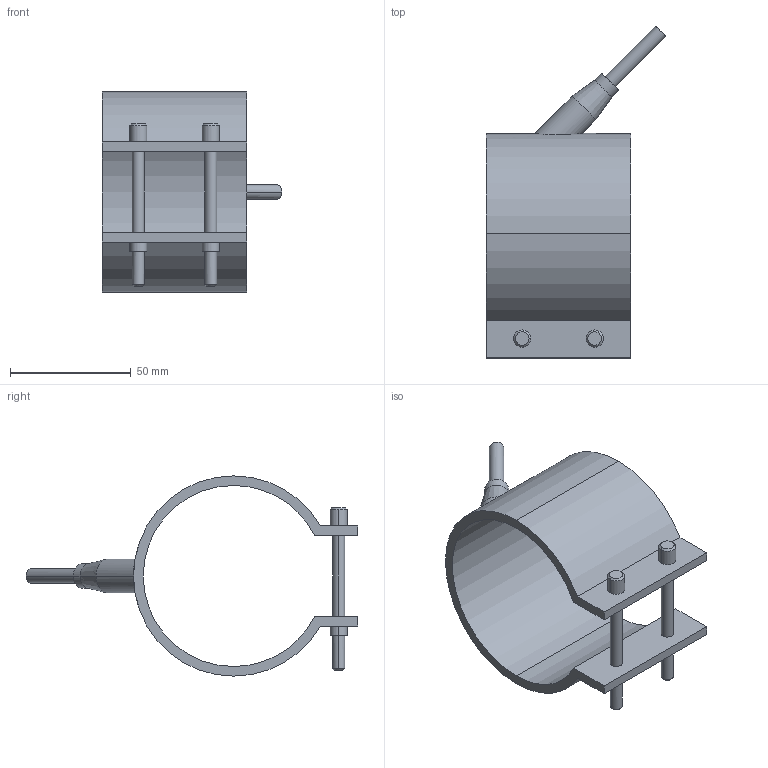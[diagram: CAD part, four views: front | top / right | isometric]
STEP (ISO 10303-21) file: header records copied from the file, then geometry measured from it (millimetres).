
FILE_DESCRIPTION(('CATIA V5 STEP Exchange'),'2;1');
FILE_NAME('C:\Users\Utente\Desktop\IO LAVORO\3D X SITO CF\X SITO\PLASTICA\RF1\29075060.stp','2021-03-29T18:13:09+00:00',('none'),('none'),'CATIA Version 5 Release 20 GA (IN-10)','CATIA V5 STEP AP203','none');
FILE_SCHEMA(('CONFIG_CONTROL_DESIGN'));
Length unit declared in the file: millimetre
Products named in the file (1): 29075060
Bounding box: 74.55 x 137.55 x 83 mm (x, y, z)
Volume: 65786.9 mm3; surface area: 35095.9 mm2
Topology: 1 solids, 1 shells, 54 faces, 125 edges, 81 vertices
Faces by surface type: cylinder 28, plane 16, cone 10
Entity records: 1732 total; most frequent: CARTESIAN_POINT 486, ORIENTED_EDGE 250, DIRECTION 215, EDGE_CURVE 125, AXIS2_PLACEMENT_3D 108, VERTEX_POINT 81, EDGE_LOOP 66, VECTOR 56
